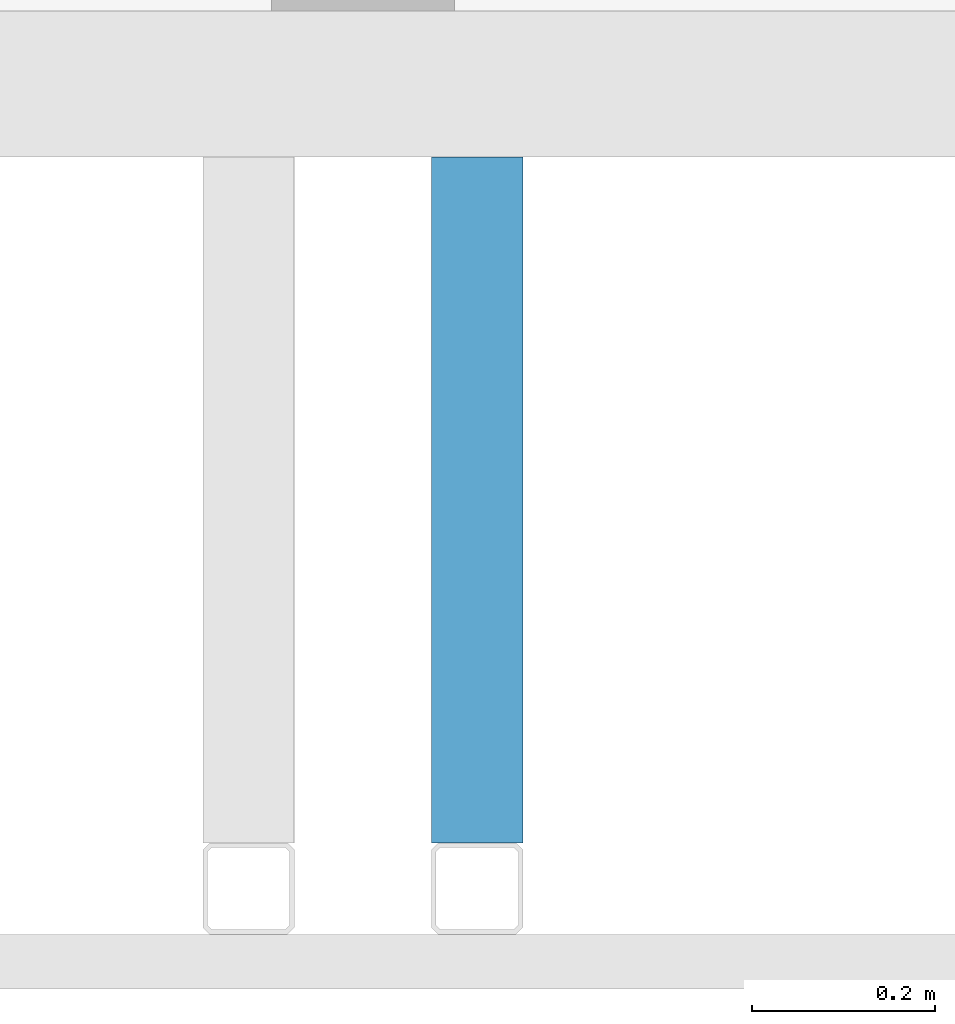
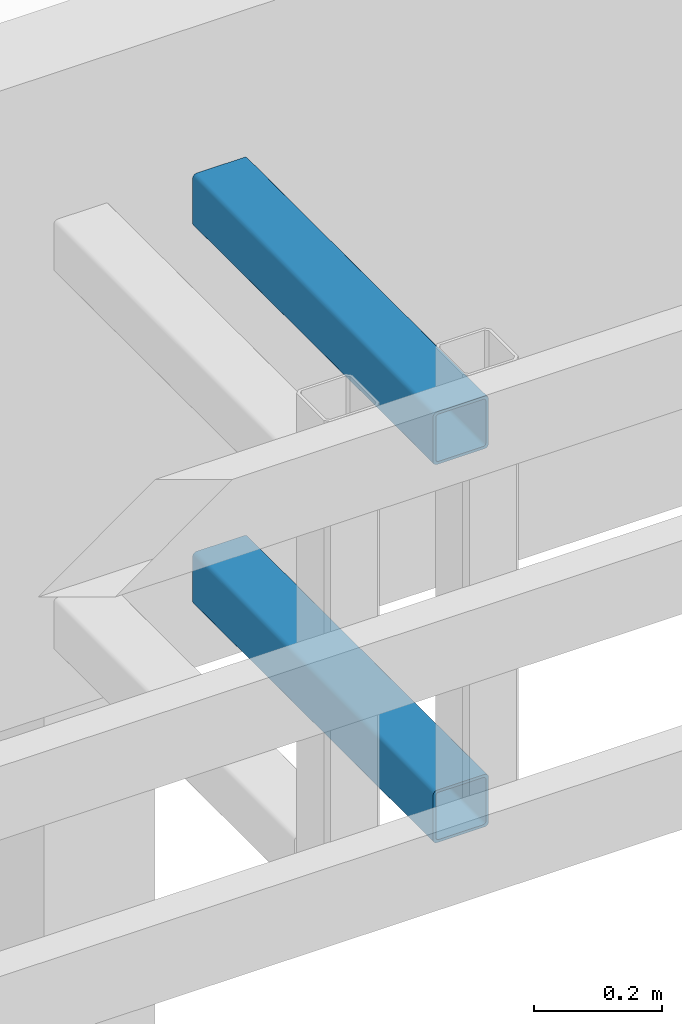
# One storey, part 27 of 44: 2 members.
"""IFC4 building model written with IfcOpenShell, lengths in metres."""

from ifc_helpers import new_model, entity, si_unit, converted_unit, derived_unit, frame, origin, place, context, subcontext, project, spatial, faceted_brep, material, element, save


model = new_model("IFC4")

# Units and contexts
model_context = context("Model", 3, precision=1e-05, world=origin())
plan_context = context("Plan", 2, precision=1e-05, world=origin())
body_context = subcontext(model_context, "Body", "Model", "MODEL_VIEW")
ifc_project = project(units=[si_unit("LENGTHUNIT", "METRE"), si_unit("AREAUNIT", "SQUARE_METRE"), si_unit("VOLUMEUNIT", "CUBIC_METRE"), si_unit("MASSUNIT", "GRAM", prefix="KILO"), converted_unit("PLANEANGLEUNIT", "DEGREE", entity("IfcPlaneAngleMeasure", 0.0174532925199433), si_unit("PLANEANGLEUNIT", "RADIAN"), dimensions=[0, 0, 0, 0, 0, 0, 0]), derived_unit("THERMALTRANSMITTANCEUNIT", [(si_unit("POWERUNIT", "WATT"), 1), (si_unit("THERMODYNAMICTEMPERATUREUNIT", "KELVIN"), -1), (si_unit("LENGTHUNIT", "METRE"), -2)]), derived_unit("VOLUMETRICFLOWRATEUNIT", [(si_unit("LENGTHUNIT", "METRE"), 3), (converted_unit("TIMEUNIT", "hour", entity("IfcTimeMeasure", 3600.0), si_unit("TIMEUNIT", "SECOND"), dimensions=[0, 0, 1, 0, 0, 0, 0]), -1), (si_unit("LENGTHUNIT", "METRE"), -1)])], contexts=[model_context, plan_context])

# Site, building, storey
site_placement = place(None, origin())
site = spatial("IfcSite", under=ifc_project, at=site_placement, Name="Site", CompositionType="ELEMENT")
building_placement = place(site_placement, origin())
building = spatial("IfcBuilding", under=site, at=building_placement, Name="Admin", CompositionType="ELEMENT")
storey_placement = place(building_placement, frame((0.0, 0.0, 3.25)))
storey = spatial("IfcBuildingStorey", under=building, at=storey_placement, Name="01-Etage1", CompositionType="ELEMENT", Elevation=3.25)

# Members
ifc_material_1 = material(Name="S235")
member_1_placement = place(storey_placement, frame((52.6248010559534, 11.1194493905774, 3.54)))
element("IfcMember", 1, at=member_1_placement, inside=storey, material=ifc_material_1, Name="Bandeau R+1", context=body_context, shape_type="Brep", body=[
    faceted_brep([(0.095, 0.0, 0.09), (0.095, 0.0, 0.01), (0.0950000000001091, 0.749999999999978, 0.01), (0.0950000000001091, 0.749999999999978, 0.09), (0.0949240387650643, 0.0, 0.0908682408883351), (0.0949240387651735, 0.749999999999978, 0.0908682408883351), (0.0946984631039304, 0.0, 0.0917101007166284), (0.0946984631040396, 0.749999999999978, 0.0917101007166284), (0.0943301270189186, 0.0, 0.0925), (0.0943301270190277, 0.749999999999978, 0.0925), (0.093830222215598, 0.0, 0.0932139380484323), (0.0938302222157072, 0.749999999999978, 0.0932139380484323), (0.0932139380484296, 1.81898940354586e-15, 0.0938302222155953), (0.0932139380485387, 0.74999999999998, 0.0938302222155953), (0.0925, 1.81898940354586e-15, 0.0943301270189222), (0.0925000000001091, 0.74999999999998, 0.0943301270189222), (0.0917101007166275, 1.81898940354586e-15, 0.0946984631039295), (0.0917101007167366, 0.74999999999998, 0.0946984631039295), (0.0908682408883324, 1.81898940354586e-15, 0.0949240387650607), (0.0908682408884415, 0.74999999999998, 0.0949240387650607), (0.09, 1.81898940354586e-15, 0.095), (0.0900000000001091, 0.74999999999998, 0.095), (0.01, 1.2732925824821e-14, 0.095), (0.0100000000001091, 0.749999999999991, 0.095), (0.00913175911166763, 1.2732925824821e-14, 0.0949240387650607), (0.00913175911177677, 0.749999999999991, 0.0949240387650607), (0.00828989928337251, 1.2732925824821e-14, 0.0946984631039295), (0.00828989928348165, 0.749999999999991, 0.0946984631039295), (0.0075, 1.2732925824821e-14, 0.0943301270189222), (0.00750000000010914, 0.749999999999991, 0.0943301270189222), (0.00678606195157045, 1.2732925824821e-14, 0.0938302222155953), (0.00678606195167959, 0.749999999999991, 0.0938302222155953), (0.00616977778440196, 1.45519152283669e-14, 0.0932139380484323), (0.0061697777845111, 0.749999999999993, 0.0932139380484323), (0.00566987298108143, 1.45519152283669e-14, 0.0925), (0.00566987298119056, 0.749999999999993, 0.0925), (0.00530153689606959, 1.45519152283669e-14, 0.0917101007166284), (0.00530153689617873, 0.749999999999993, 0.0917101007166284), (0.00507596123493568, 1.45519152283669e-14, 0.0908682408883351), (0.00507596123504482, 0.749999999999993, 0.0908682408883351), (0.005, 1.45519152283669e-14, 0.09), (0.00500000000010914, 0.749999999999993, 0.09), (0.005, 1.45519152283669e-14, 0.01), (0.00500000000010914, 0.749999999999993, 0.01), (0.00507596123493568, 1.45519152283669e-14, 0.00913175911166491), (0.00507596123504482, 0.749999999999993, 0.00913175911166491), (0.00530153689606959, 1.45519152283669e-14, 0.0082898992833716), (0.00530153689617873, 0.749999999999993, 0.0082898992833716), (0.00566987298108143, 1.45519152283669e-14, 0.0075), (0.00566987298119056, 0.749999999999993, 0.0075), (0.00616977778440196, 1.45519152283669e-14, 0.00678606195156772), (0.0061697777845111, 0.749999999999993, 0.00678606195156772), (0.00678606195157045, 1.2732925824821e-14, 0.00616977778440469), (0.00678606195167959, 0.749999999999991, 0.00616977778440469), (0.0075, 1.2732925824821e-14, 0.00566987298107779), (0.00750000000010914, 0.749999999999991, 0.00566987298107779), (0.00828989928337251, 1.2732925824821e-14, 0.0053015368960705), (0.00828989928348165, 0.749999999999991, 0.0053015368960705), (0.00913175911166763, 1.2732925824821e-14, 0.00507596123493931), (0.00913175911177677, 0.749999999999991, 0.00507596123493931), (0.01, 1.2732925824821e-14, 0.005), (0.0100000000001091, 0.749999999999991, 0.005), (0.09, 1.81898940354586e-15, 0.005), (0.0900000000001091, 0.74999999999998, 0.005), (0.0908682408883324, 1.81898940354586e-15, 0.00507596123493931), (0.0908682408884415, 0.74999999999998, 0.00507596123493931), (0.0917101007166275, 1.81898940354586e-15, 0.0053015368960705), (0.0917101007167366, 0.74999999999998, 0.0053015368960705), (0.0925, 1.81898940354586e-15, 0.00566987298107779), (0.0925000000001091, 0.74999999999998, 0.00566987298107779), (0.0932139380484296, 1.81898940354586e-15, 0.00616977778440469), (0.0932139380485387, 0.74999999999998, 0.00616977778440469), (0.093830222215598, 0.0, 0.00678606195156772), (0.0938302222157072, 0.749999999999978, 0.00678606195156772), (0.0943301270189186, 0.0, 0.0075), (0.0943301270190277, 0.749999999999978, 0.0075), (0.0946984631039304, 0.0, 0.0082898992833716), (0.0946984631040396, 0.749999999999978, 0.0082898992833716), (0.0949240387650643, 0.0, 0.00913175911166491), (0.0949240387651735, 0.749999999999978, 0.00913175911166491), (0.0075, 1.2732925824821e-14, 0.1), (0.00619763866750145, 1.45519152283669e-14, 0.0998860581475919), (0.00619763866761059, 0.749999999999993, 0.0998860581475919), (0.00750000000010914, 0.749999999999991, 0.1), (0.0925, 1.81898940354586e-15, 0.1), (0.0925000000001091, 0.74999999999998, 0.1), (0.0938023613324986, 0.0, 0.0998860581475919), (0.0938023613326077, 0.749999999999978, 0.0998860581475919), (0.0950651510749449, 0.0, 0.0995476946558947), (0.095065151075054, 0.749999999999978, 0.0995476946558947), (0.09625, 0.0, 0.0989951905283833), (0.0962500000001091, 0.749999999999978, 0.0989951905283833), (0.0973209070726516, 0.0, 0.0982453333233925), (0.0973209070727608, 0.749999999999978, 0.0982453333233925), (0.0982453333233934, 0.0, 0.0973209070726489), (0.0982453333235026, 0.749999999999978, 0.0973209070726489), (0.0989951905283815, 0.0, 0.09625), (0.0989951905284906, 0.749999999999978, 0.09625), (0.099547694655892, 0.0, 0.0950651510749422), (0.0995476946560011, 0.749999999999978, 0.0950651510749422), (0.0998860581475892, 0.0, 0.0938023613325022), (0.0998860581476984, 0.749999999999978, 0.0938023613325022), (0.1, 0.0, 0.0925), (0.100000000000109, 0.749999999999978, 0.0925), (0.0998860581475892, 0.0, 0.00619763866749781), (0.1, 0.0, 0.0075), (0.100000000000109, 0.749999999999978, 0.0075), (0.0998860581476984, 0.749999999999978, 0.00619763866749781), (0.099547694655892, 0.0, 0.00493484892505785), (0.0995476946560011, 0.749999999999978, 0.00493484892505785), (0.0989951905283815, 0.0, 0.00375), (0.0989951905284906, 0.749999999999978, 0.00375), (0.0982453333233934, 0.0, 0.00267909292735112), (0.0982453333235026, 0.749999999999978, 0.00267909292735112), (0.0973209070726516, 0.0, 0.00175466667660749), (0.0973209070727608, 0.749999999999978, 0.00175466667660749), (0.09625, 0.0, 0.00100480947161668), (0.0962500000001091, 0.749999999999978, 0.00100480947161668), (0.0950651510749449, 0.0, 0.000452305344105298), (0.095065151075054, 0.749999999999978, 0.000452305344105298), (0.0938023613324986, 0.0, 0.000113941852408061), (0.0938023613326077, 0.749999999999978, 0.000113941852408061), (0.0925, 1.81898940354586e-15, 0.0), (0.0925000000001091, 0.74999999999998, 0.0), (0.0075, 1.2732925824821e-14, 0.0), (0.00750000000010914, 0.749999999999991, 0.0), (0.00619763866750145, 1.45519152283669e-14, 0.000113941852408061), (0.00619763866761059, 0.749999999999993, 0.000113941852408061), (0.00493484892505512, 1.45519152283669e-14, 0.000452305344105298), (0.00493484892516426, 0.749999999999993, 0.000452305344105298), (0.00375, 1.45519152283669e-14, 0.00100480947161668), (0.00375000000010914, 0.749999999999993, 0.00100480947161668), (0.00267909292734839, 1.45519152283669e-14, 0.00175466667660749), (0.00267909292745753, 0.749999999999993, 0.00175466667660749), (0.00175466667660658, 1.45519152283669e-14, 0.00267909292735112), (0.00175466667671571, 0.749999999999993, 0.00267909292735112), (0.0010048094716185, 1.45519152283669e-14, 0.00375), (0.00100480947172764, 0.749999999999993, 0.00375), (0.000452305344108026, 1.45519152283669e-14, 0.00493484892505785), (0.000452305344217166, 0.749999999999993, 0.00493484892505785), (0.00011394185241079, 1.45519152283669e-14, 0.00619763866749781), (0.000113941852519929, 0.749999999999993, 0.00619763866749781), (0.0, 0.0, 0.0075), (1.09139364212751e-13, 0.749999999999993, 0.0075), (0.00011394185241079, 1.45519152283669e-14, 0.0938023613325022), (0.0, -1.81898940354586e-15, 0.0925), (1.09139364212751e-13, 0.749999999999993, 0.0925), (0.000113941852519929, 0.749999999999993, 0.0938023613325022), (0.000452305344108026, 1.45519152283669e-14, 0.0950651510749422), (0.000452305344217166, 0.749999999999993, 0.0950651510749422), (0.0010048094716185, 1.45519152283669e-14, 0.09625), (0.00100480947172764, 0.749999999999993, 0.09625), (0.00175466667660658, 1.45519152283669e-14, 0.0973209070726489), (0.00175466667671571, 0.749999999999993, 0.0973209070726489), (0.00267909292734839, 1.45519152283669e-14, 0.0982453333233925), (0.00267909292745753, 0.749999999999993, 0.0982453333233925), (0.00375, 1.45519152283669e-14, 0.0989951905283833), (0.00375000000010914, 0.749999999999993, 0.0989951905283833), (0.00493484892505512, 1.45519152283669e-14, 0.0995476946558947), (0.00493484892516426, 0.749999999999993, 0.0995476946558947)], [[[0, 1, 2, 3]], [[4, 0, 3, 5]], [[6, 4, 5, 7]], [[8, 6, 7, 9]], [[10, 8, 9, 11]], [[12, 10, 11, 13]], [[14, 12, 13, 15]], [[16, 14, 15, 17]], [[18, 16, 17, 19]], [[20, 18, 19, 21]], [[22, 20, 21, 23]], [[24, 22, 23, 25]], [[26, 24, 25, 27]], [[28, 26, 27, 29]], [[30, 28, 29, 31]], [[32, 30, 31, 33]], [[34, 32, 33, 35]], [[36, 34, 35, 37]], [[38, 36, 37, 39]], [[40, 38, 39, 41]], [[42, 40, 41, 43]], [[44, 42, 43, 45]], [[46, 44, 45, 47]], [[48, 46, 47, 49]], [[50, 48, 49, 51]], [[52, 50, 51, 53]], [[54, 52, 53, 55]], [[56, 54, 55, 57]], [[58, 56, 57, 59]], [[60, 58, 59, 61]], [[62, 60, 61, 63]], [[64, 62, 63, 65]], [[66, 64, 65, 67]], [[68, 66, 67, 69]], [[70, 68, 69, 71]], [[72, 70, 71, 73]], [[74, 72, 73, 75]], [[76, 74, 75, 77]], [[78, 76, 77, 79]], [[1, 78, 79, 2]], [[80, 81, 82, 83]], [[84, 80, 83, 85]], [[86, 84, 85, 87]], [[88, 86, 87, 89]], [[90, 88, 89, 91]], [[92, 90, 91, 93]], [[94, 92, 93, 95]], [[96, 94, 95, 97]], [[98, 96, 97, 99]], [[100, 98, 99, 101]], [[102, 100, 101, 103]], [[104, 105, 106, 107]], [[108, 104, 107, 109]], [[110, 108, 109, 111]], [[112, 110, 111, 113]], [[114, 112, 113, 115]], [[116, 114, 115, 117]], [[118, 116, 117, 119]], [[120, 118, 119, 121]], [[122, 120, 121, 123]], [[124, 122, 123, 125]], [[126, 124, 125, 127]], [[128, 126, 127, 129]], [[130, 128, 129, 131]], [[132, 130, 131, 133]], [[134, 132, 133, 135]], [[136, 134, 135, 137]], [[138, 136, 137, 139]], [[140, 138, 139, 141]], [[142, 140, 141, 143]], [[144, 145, 146, 147]], [[148, 144, 147, 149]], [[150, 148, 149, 151]], [[152, 150, 151, 153]], [[154, 152, 153, 155]], [[156, 154, 155, 157]], [[158, 156, 157, 159]], [[81, 158, 159, 82]], [[146, 143, 141, 139, 137, 135, 133, 131, 129, 127, 125, 123, 121, 119, 117, 115, 113, 111, 109, 107, 106, 103, 101, 99, 97, 95, 93, 91, 89, 87, 85, 83, 82, 159, 157, 155, 153, 151, 149, 147], [2, 79, 77, 75, 73, 71, 69, 67, 65, 63, 61, 59, 57, 55, 53, 51, 49, 47, 45, 43, 41, 39, 37, 35, 33, 31, 29, 27, 25, 23, 21, 19, 17, 15, 13, 11, 9, 7, 5, 3]], [[103, 106, 105, 102]], [[102, 105, 104, 108, 110, 112, 114, 116, 118, 120, 122, 124, 126, 128, 130, 132, 134, 136, 138, 140, 142, 145, 144, 148, 150, 152, 154, 156, 158, 81, 80, 84, 86, 88, 90, 92, 94, 96, 98, 100], [1, 0, 4, 6, 8, 10, 12, 14, 16, 18, 20, 22, 24, 26, 28, 30, 32, 34, 36, 38, 40, 42, 44, 46, 48, 50, 52, 54, 56, 58, 60, 62, 64, 66, 68, 70, 72, 74, 76, 78]], [[145, 142, 143, 146]]], orient=[[False], [False], [False], [False], [False], [False], [False], [False], [False], [False], [False], [False], [False], [False], [False], [False], [False], [False], [False], [False], [False], [False], [False], [False], [False], [False], [False], [False], [False], [False], [False], [False], [False], [False], [False], [False], [False], [False], [False], [False], [False], [False], [False], [False], [False], [False], [False], [False], [False], [False], [False], [False], [False], [False], [False], [False], [False], [False], [False], [False], [False], [False], [False], [False], [False], [False], [False], [False], [False], [False], [False], [False], [False], [False], [False], [False], [False], [False], [False, False], [False], [False, False], [False]]),
])
ifc_material_2 = material(Name="S235")
member_2_placement = place(storey_placement, frame((52.6248010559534, 11.1194493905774, 2.82)))
element("IfcMember", 2, at=member_2_placement, inside=storey, material=ifc_material_2, Name="Bandeau R+1", context=body_context, shape_type="Brep", body=[
    faceted_brep([(0.095, 0.0, 0.09), (0.095, 0.0, 0.01), (0.0950000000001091, 0.749999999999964, 0.01), (0.0950000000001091, 0.749999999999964, 0.09), (0.0949240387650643, 0.0, 0.0908682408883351), (0.0949240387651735, 0.749999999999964, 0.0908682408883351), (0.0946984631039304, 0.0, 0.0917101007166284), (0.0946984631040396, 0.749999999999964, 0.0917101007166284), (0.0943301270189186, 0.0, 0.0925), (0.0943301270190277, 0.749999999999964, 0.0925), (0.093830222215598, 0.0, 0.0932139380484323), (0.0938302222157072, 0.749999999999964, 0.0932139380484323), (0.0932139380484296, 1.81898940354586e-15, 0.0938302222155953), (0.0932139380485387, 0.749999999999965, 0.0938302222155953), (0.0925, 1.81898940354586e-15, 0.0943301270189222), (0.0925000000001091, 0.749999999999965, 0.0943301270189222), (0.0917101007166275, 1.81898940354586e-15, 0.0946984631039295), (0.0917101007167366, 0.749999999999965, 0.0946984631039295), (0.0908682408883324, 1.81898940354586e-15, 0.0949240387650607), (0.0908682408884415, 0.749999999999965, 0.0949240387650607), (0.09, 1.81898940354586e-15, 0.095), (0.0900000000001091, 0.749999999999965, 0.095), (0.01, 1.2732925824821e-14, 0.095), (0.0100000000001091, 0.749999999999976, 0.095), (0.00913175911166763, 1.2732925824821e-14, 0.0949240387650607), (0.00913175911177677, 0.749999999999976, 0.0949240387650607), (0.00828989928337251, 1.2732925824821e-14, 0.0946984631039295), (0.00828989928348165, 0.749999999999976, 0.0946984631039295), (0.0075, 1.2732925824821e-14, 0.0943301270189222), (0.00750000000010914, 0.749999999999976, 0.0943301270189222), (0.00678606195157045, 1.2732925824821e-14, 0.0938302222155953), (0.00678606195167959, 0.749999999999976, 0.0938302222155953), (0.00616977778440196, 1.45519152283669e-14, 0.0932139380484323), (0.0061697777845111, 0.749999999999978, 0.0932139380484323), (0.00566987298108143, 1.45519152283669e-14, 0.0925), (0.00566987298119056, 0.749999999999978, 0.0925), (0.00530153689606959, 1.45519152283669e-14, 0.0917101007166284), (0.00530153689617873, 0.749999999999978, 0.0917101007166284), (0.00507596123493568, 1.45519152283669e-14, 0.0908682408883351), (0.00507596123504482, 0.749999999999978, 0.0908682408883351), (0.005, 1.45519152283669e-14, 0.09), (0.00500000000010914, 0.749999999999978, 0.09), (0.005, 1.45519152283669e-14, 0.01), (0.00500000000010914, 0.749999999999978, 0.01), (0.00507596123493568, 1.45519152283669e-14, 0.00913175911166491), (0.00507596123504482, 0.749999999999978, 0.00913175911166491), (0.00530153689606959, 1.45519152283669e-14, 0.0082898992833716), (0.00530153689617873, 0.749999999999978, 0.0082898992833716), (0.00566987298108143, 1.45519152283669e-14, 0.0075), (0.00566987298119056, 0.749999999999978, 0.0075), (0.00616977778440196, 1.45519152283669e-14, 0.00678606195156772), (0.0061697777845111, 0.749999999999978, 0.00678606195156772), (0.00678606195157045, 1.2732925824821e-14, 0.00616977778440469), (0.00678606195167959, 0.749999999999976, 0.00616977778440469), (0.0075, 1.2732925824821e-14, 0.00566987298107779), (0.00750000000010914, 0.749999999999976, 0.00566987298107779), (0.00828989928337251, 1.2732925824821e-14, 0.0053015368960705), (0.00828989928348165, 0.749999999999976, 0.0053015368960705), (0.00913175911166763, 1.2732925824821e-14, 0.00507596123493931), (0.00913175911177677, 0.749999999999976, 0.00507596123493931), (0.01, 1.2732925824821e-14, 0.005), (0.0100000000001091, 0.749999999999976, 0.005), (0.09, 1.81898940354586e-15, 0.005), (0.0900000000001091, 0.749999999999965, 0.005), (0.0908682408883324, 1.81898940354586e-15, 0.00507596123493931), (0.0908682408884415, 0.749999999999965, 0.00507596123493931), (0.0917101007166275, 1.81898940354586e-15, 0.0053015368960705), (0.0917101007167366, 0.749999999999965, 0.0053015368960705), (0.0925, 1.81898940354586e-15, 0.00566987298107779), (0.0925000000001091, 0.749999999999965, 0.00566987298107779), (0.0932139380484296, 1.81898940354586e-15, 0.00616977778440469), (0.0932139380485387, 0.749999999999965, 0.00616977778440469), (0.093830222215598, 0.0, 0.00678606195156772), (0.0938302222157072, 0.749999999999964, 0.00678606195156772), (0.0943301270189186, 0.0, 0.0075), (0.0943301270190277, 0.749999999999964, 0.0075), (0.0946984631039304, 0.0, 0.0082898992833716), (0.0946984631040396, 0.749999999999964, 0.0082898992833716), (0.0949240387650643, 0.0, 0.00913175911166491), (0.0949240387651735, 0.749999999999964, 0.00913175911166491), (0.0075, 1.2732925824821e-14, 0.1), (0.00619763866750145, 1.45519152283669e-14, 0.0998860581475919), (0.00619763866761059, 0.749999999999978, 0.0998860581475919), (0.00750000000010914, 0.749999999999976, 0.1), (0.0925, 1.81898940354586e-15, 0.1), (0.0925000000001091, 0.749999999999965, 0.1), (0.0938023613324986, 0.0, 0.0998860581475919), (0.0938023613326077, 0.749999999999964, 0.0998860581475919), (0.0950651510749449, 0.0, 0.0995476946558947), (0.095065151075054, 0.749999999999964, 0.0995476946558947), (0.09625, 0.0, 0.0989951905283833), (0.0962500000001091, 0.749999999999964, 0.0989951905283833), (0.0973209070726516, 0.0, 0.0982453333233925), (0.0973209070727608, 0.749999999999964, 0.0982453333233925), (0.0982453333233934, 0.0, 0.0973209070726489), (0.0982453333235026, 0.749999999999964, 0.0973209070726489), (0.0989951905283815, 0.0, 0.09625), (0.0989951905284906, 0.749999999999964, 0.09625), (0.099547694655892, 0.0, 0.0950651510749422), (0.0995476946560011, 0.749999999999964, 0.0950651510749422), (0.0998860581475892, 0.0, 0.0938023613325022), (0.0998860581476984, 0.749999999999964, 0.0938023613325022), (0.1, 0.0, 0.0925), (0.100000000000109, 0.749999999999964, 0.0925), (0.0998860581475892, 0.0, 0.00619763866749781), (0.1, 0.0, 0.0075), (0.100000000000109, 0.749999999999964, 0.0075), (0.0998860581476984, 0.749999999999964, 0.00619763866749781), (0.099547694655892, 0.0, 0.00493484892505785), (0.0995476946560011, 0.749999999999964, 0.00493484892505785), (0.0989951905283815, 0.0, 0.00375), (0.0989951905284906, 0.749999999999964, 0.00375), (0.0982453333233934, 0.0, 0.00267909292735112), (0.0982453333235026, 0.749999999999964, 0.00267909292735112), (0.0973209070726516, 0.0, 0.00175466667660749), (0.0973209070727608, 0.749999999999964, 0.00175466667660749), (0.09625, 0.0, 0.00100480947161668), (0.0962500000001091, 0.749999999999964, 0.00100480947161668), (0.0950651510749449, 0.0, 0.000452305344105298), (0.095065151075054, 0.749999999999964, 0.000452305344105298), (0.0938023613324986, 0.0, 0.000113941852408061), (0.0938023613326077, 0.749999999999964, 0.000113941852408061), (0.0925, 1.81898940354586e-15, 0.0), (0.0925000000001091, 0.749999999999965, 0.0), (0.0075, 1.2732925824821e-14, 0.0), (0.00750000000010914, 0.749999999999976, 0.0), (0.00619763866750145, 1.45519152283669e-14, 0.000113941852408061), (0.00619763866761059, 0.749999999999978, 0.000113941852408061), (0.00493484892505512, 1.45519152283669e-14, 0.000452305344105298), (0.00493484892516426, 0.749999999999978, 0.000452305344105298), (0.00375, 1.45519152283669e-14, 0.00100480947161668), (0.00375000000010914, 0.749999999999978, 0.00100480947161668), (0.00267909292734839, 1.45519152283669e-14, 0.00175466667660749), (0.00267909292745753, 0.749999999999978, 0.00175466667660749), (0.00175466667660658, 1.45519152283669e-14, 0.00267909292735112), (0.00175466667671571, 0.749999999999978, 0.00267909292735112), (0.0010048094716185, 1.45519152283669e-14, 0.00375), (0.00100480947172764, 0.749999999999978, 0.00375), (0.000452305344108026, 1.45519152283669e-14, 0.00493484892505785), (0.000452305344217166, 0.749999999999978, 0.00493484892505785), (0.00011394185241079, 1.45519152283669e-14, 0.00619763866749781), (0.000113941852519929, 0.749999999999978, 0.00619763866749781), (0.0, 0.0, 0.0075), (1.09139364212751e-13, 0.749999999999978, 0.0075), (0.00011394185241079, 1.45519152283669e-14, 0.0938023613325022), (0.0, 0.0, 0.0925), (1.09139364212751e-13, 0.749999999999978, 0.0925), (0.000113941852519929, 0.749999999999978, 0.0938023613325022), (0.000452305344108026, 1.45519152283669e-14, 0.0950651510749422), (0.000452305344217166, 0.749999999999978, 0.0950651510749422), (0.0010048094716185, 1.45519152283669e-14, 0.09625), (0.00100480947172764, 0.749999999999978, 0.09625), (0.00175466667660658, 1.45519152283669e-14, 0.0973209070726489), (0.00175466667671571, 0.749999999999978, 0.0973209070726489), (0.00267909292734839, 1.45519152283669e-14, 0.0982453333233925), (0.00267909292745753, 0.749999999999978, 0.0982453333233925), (0.00375, 1.45519152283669e-14, 0.0989951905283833), (0.00375000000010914, 0.749999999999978, 0.0989951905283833), (0.00493484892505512, 1.45519152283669e-14, 0.0995476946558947), (0.00493484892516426, 0.749999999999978, 0.0995476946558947)], [[[0, 1, 2, 3]], [[4, 0, 3, 5]], [[6, 4, 5, 7]], [[8, 6, 7, 9]], [[10, 8, 9, 11]], [[12, 10, 11, 13]], [[14, 12, 13, 15]], [[16, 14, 15, 17]], [[18, 16, 17, 19]], [[20, 18, 19, 21]], [[22, 20, 21, 23]], [[24, 22, 23, 25]], [[26, 24, 25, 27]], [[28, 26, 27, 29]], [[30, 28, 29, 31]], [[32, 30, 31, 33]], [[34, 32, 33, 35]], [[36, 34, 35, 37]], [[38, 36, 37, 39]], [[40, 38, 39, 41]], [[42, 40, 41, 43]], [[44, 42, 43, 45]], [[46, 44, 45, 47]], [[48, 46, 47, 49]], [[50, 48, 49, 51]], [[52, 50, 51, 53]], [[54, 52, 53, 55]], [[56, 54, 55, 57]], [[58, 56, 57, 59]], [[60, 58, 59, 61]], [[62, 60, 61, 63]], [[64, 62, 63, 65]], [[66, 64, 65, 67]], [[68, 66, 67, 69]], [[70, 68, 69, 71]], [[72, 70, 71, 73]], [[74, 72, 73, 75]], [[76, 74, 75, 77]], [[78, 76, 77, 79]], [[1, 78, 79, 2]], [[80, 81, 82, 83]], [[84, 80, 83, 85]], [[86, 84, 85, 87]], [[88, 86, 87, 89]], [[90, 88, 89, 91]], [[92, 90, 91, 93]], [[94, 92, 93, 95]], [[96, 94, 95, 97]], [[98, 96, 97, 99]], [[100, 98, 99, 101]], [[102, 100, 101, 103]], [[104, 105, 106, 107]], [[108, 104, 107, 109]], [[110, 108, 109, 111]], [[112, 110, 111, 113]], [[114, 112, 113, 115]], [[116, 114, 115, 117]], [[118, 116, 117, 119]], [[120, 118, 119, 121]], [[122, 120, 121, 123]], [[124, 122, 123, 125]], [[126, 124, 125, 127]], [[128, 126, 127, 129]], [[130, 128, 129, 131]], [[132, 130, 131, 133]], [[134, 132, 133, 135]], [[136, 134, 135, 137]], [[138, 136, 137, 139]], [[140, 138, 139, 141]], [[142, 140, 141, 143]], [[144, 145, 146, 147]], [[148, 144, 147, 149]], [[150, 148, 149, 151]], [[152, 150, 151, 153]], [[154, 152, 153, 155]], [[156, 154, 155, 157]], [[158, 156, 157, 159]], [[81, 158, 159, 82]], [[146, 143, 141, 139, 137, 135, 133, 131, 129, 127, 125, 123, 121, 119, 117, 115, 113, 111, 109, 107, 106, 103, 101, 99, 97, 95, 93, 91, 89, 87, 85, 83, 82, 159, 157, 155, 153, 151, 149, 147], [2, 79, 77, 75, 73, 71, 69, 67, 65, 63, 61, 59, 57, 55, 53, 51, 49, 47, 45, 43, 41, 39, 37, 35, 33, 31, 29, 27, 25, 23, 21, 19, 17, 15, 13, 11, 9, 7, 5, 3]], [[103, 106, 105, 102]], [[102, 105, 104, 108, 110, 112, 114, 116, 118, 120, 122, 124, 126, 128, 130, 132, 134, 136, 138, 140, 142, 145, 144, 148, 150, 152, 154, 156, 158, 81, 80, 84, 86, 88, 90, 92, 94, 96, 98, 100], [1, 0, 4, 6, 8, 10, 12, 14, 16, 18, 20, 22, 24, 26, 28, 30, 32, 34, 36, 38, 40, 42, 44, 46, 48, 50, 52, 54, 56, 58, 60, 62, 64, 66, 68, 70, 72, 74, 76, 78]], [[145, 142, 143, 146]]], orient=[[False], [False], [False], [False], [False], [False], [False], [False], [False], [False], [False], [False], [False], [False], [False], [False], [False], [False], [False], [False], [False], [False], [False], [False], [False], [False], [False], [False], [False], [False], [False], [False], [False], [False], [False], [False], [False], [False], [False], [False], [False], [False], [False], [False], [False], [False], [False], [False], [False], [False], [False], [False], [False], [False], [False], [False], [False], [False], [False], [False], [False], [False], [False], [False], [False], [False], [False], [False], [False], [False], [False], [False], [False], [False], [False], [False], [False], [False], [False, False], [False], [False, False], [False]]),
])

save(model, "model.ifc")
